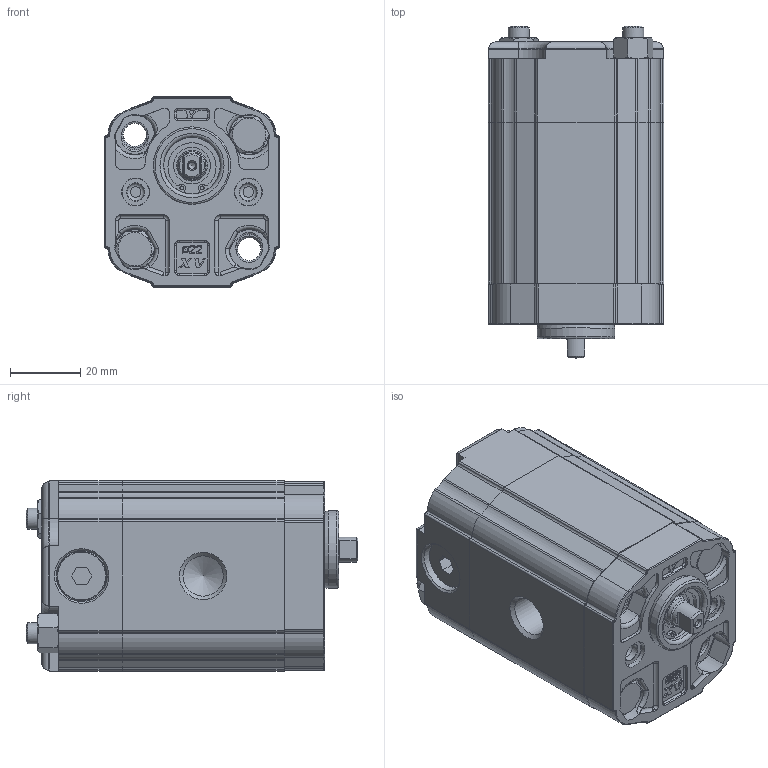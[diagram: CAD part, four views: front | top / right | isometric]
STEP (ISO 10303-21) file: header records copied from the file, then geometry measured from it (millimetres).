
FILE_DESCRIPTION(/* description */ ('Unknown'),/* implementation_level */ '2;1');
FILE_NAME(/* name */ 'X0M1321BBBF',/* time_stamp */ '2021-06-04T14:12:38+02:00',/* author */ ('Unknown'),/* organization */ ('Unknown'),/* preprocessor_version */ 'ST-DEVELOPER v16.7',/* originating_system */ 'Solid Edge',/* authorisation */ 'Unknown');
FILE_SCHEMA (('AUTOMOTIVE_DESIGN {1 0 10303 214 3 1 1}'));
Length unit declared in the file: millimetre
Products named in the file (5): X0M1321BBBF; X0M21; 0B; X0BBH46; XM017-F
Assembly tree (4 placements, depth 2):
  X0M1321BBBF
    X0M21
    0B
    X0BBH46
    XM017-F
Bounding box: 50 x 94.3 x 54 mm (x, y, z)
Volume: 178772.2 mm3; surface area: 42156.4 mm2
Topology: 4 solids, 9 shells, 813 faces, 2079 edges, 1319 vertices
Faces by surface type: plane 350, cylinder 289, cone 71, torus 69, bspline 30, sphere 4
Full cylindrical faces by diameter (mm): 1.053 x2, 2 x1, 5 x2, 6 x4, 6.01 x2, 6.5 x6, 7.16 x1, 7.5 x2, 7.9 x2, 7.92 x1, 8 x2, 8.1 x2, 8.566 x6, 9.318 x1, 10 x4, 10.445 x1, 11 x1, 11.445 x2, 14 x5, 14.5 x2, 16 x1, 16.2 x1, 16.8 x1, 22 x1
Entity records: 29928 total; most frequent: CARTESIAN_POINT 4876, DIRECTION 4145, ORIENTED_EDGE 3862, EDGE_CURVE 1931, AXIS2_PLACEMENT_3D 1563, VERTEX_POINT 1279, LINE 1019, VECTOR 1019
